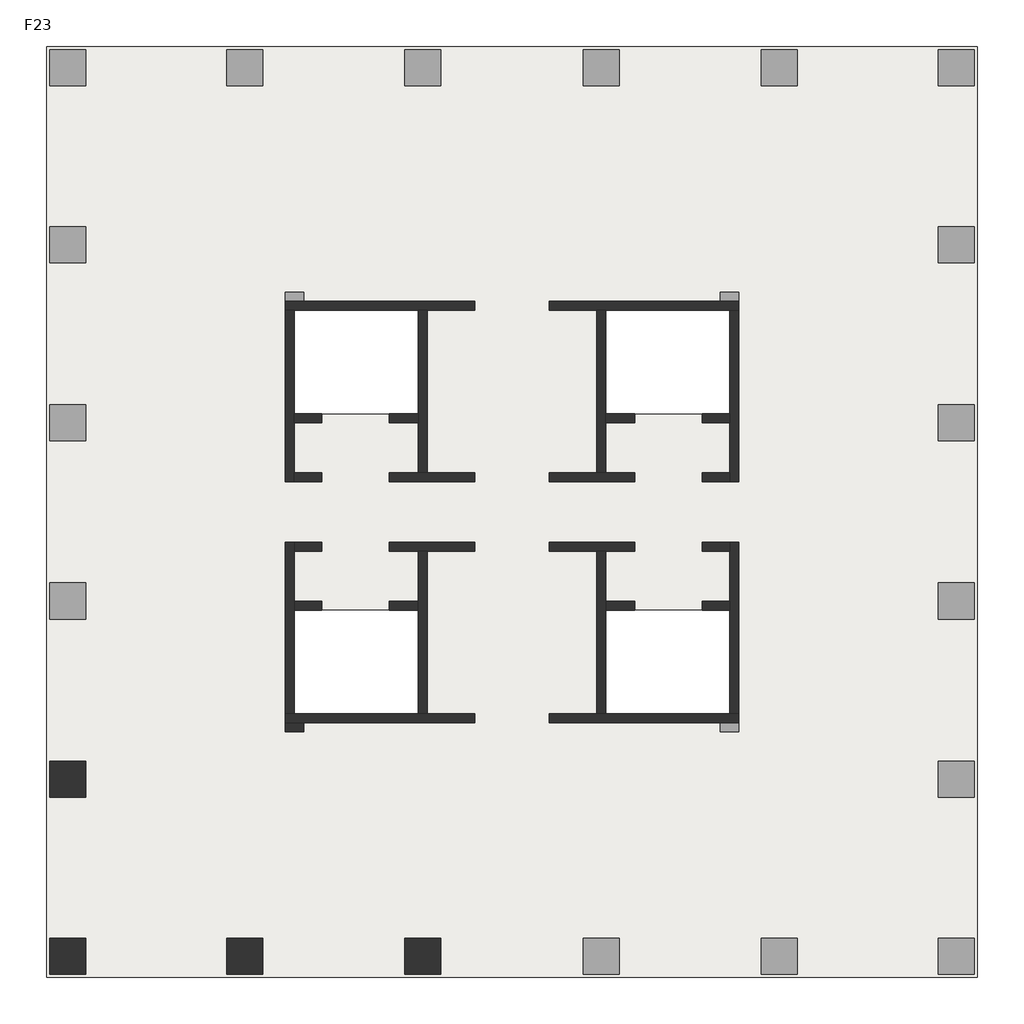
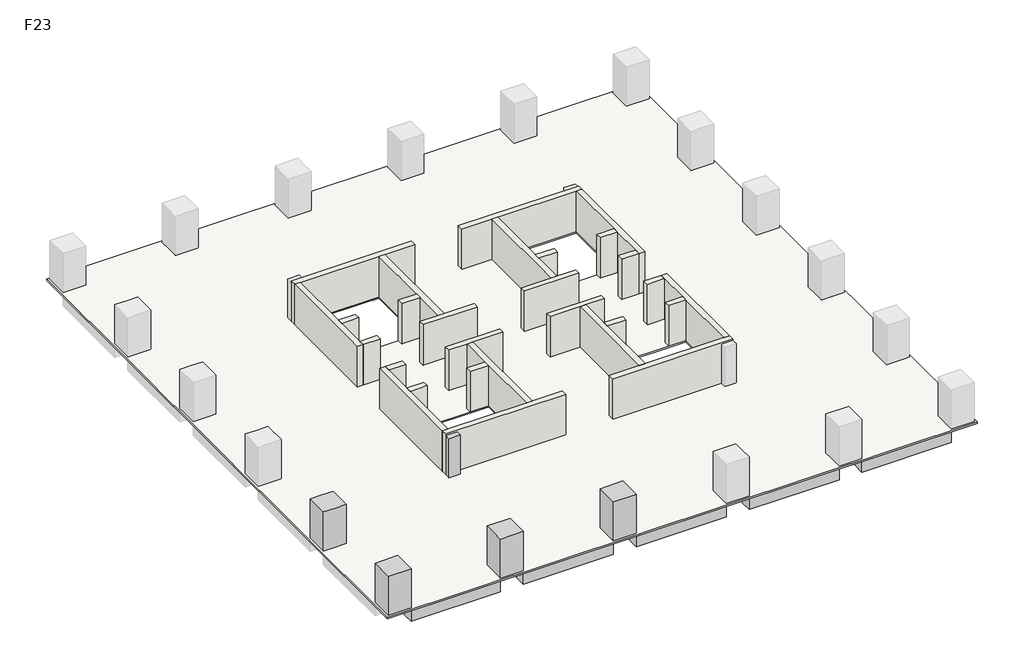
# One storey, part 1 of 2: 28 walls, 5 columns, 3 beams, 1 slab.
"""IFC4 building model written with IfcOpenShell, lengths in millimetres."""

from ifc_helpers import new_model, si_unit, frame, origin, place, context, project, spatial, polyline, outline, extrude, faceted_brep, element, save

model = new_model("IFC4")

# Units and contexts
model_context = context("Model", 3, world=origin())
ifc_project = project(units=[si_unit("LENGTHUNIT", "METRE", prefix="MILLI")], contexts=[model_context])

# Site, building, storey
site = spatial("IfcSite", under=ifc_project)
building = spatial("IfcBuilding", under=site)
storey = spatial("IfcBuildingStorey", under=building, Name="F23", Elevation=87000.0)

# Beams
placement = place(None, origin())
element("IfcBeam", 1, ObjectType="混凝土 - 矩形梁 : KL(5)-800x1000", at=placement, inside=storey, context=model_context, shape_type="SweptSolid", body=[
    extrude(outline(polyline([(-12472.6742169, -13948.9501342), (-12472.6742169, -13148.9501342), (-6222.6742169, -13148.9501342), (-6222.6742169, -13948.9501342), (-12472.6742169, -13948.9501342)])), frame((0.0, 0.0, 86000.0), z_axis=(0.0, 0.0, 1.0), x_axis=(1.0, 0.0, 0.0)), (0.0, 0.0, 1.0), 900.0),
    extrude(outline(polyline([(25327.3257831, -13148.9501342), (25327.3257831, -13948.9501342), (19077.3257831, -13948.9501342), (19077.3257831, -13148.9501342), (25327.3257831, -13148.9501342)])), frame((0.0, 0.0, 86000.0), z_axis=(0.0, 0.0, 1.0), x_axis=(1.0, 0.0, 0.0)), (0.0, 0.0, 1.0), 900.0),
    extrude(outline(polyline([(-4622.6742169, -13948.9501342), (-4622.6742169, -13148.9501342), (1677.3257831, -13148.9501342), (1677.3257831, -13948.9501342), (-4622.6742169, -13948.9501342)])), frame((0.0, 0.0, 86000.0), z_axis=(0.0, 0.0, 1.0), x_axis=(1.0, 0.0, 0.0)), (0.0, 0.0, 1.0), 900.0),
    extrude(outline(polyline([(3277.3257831, -13948.9501342), (3277.3257831, -13148.9501342), (9577.3257831, -13148.9501342), (9577.3257831, -13948.9501342), (3277.3257831, -13948.9501342)])), frame((0.0, 0.0, 86000.0), z_axis=(0.0, 0.0, 1.0), x_axis=(1.0, 0.0, 0.0)), (0.0, 0.0, 1.0), 900.0),
    extrude(outline(polyline([(11177.3257831, -13948.9501342), (11177.3257831, -13148.9501342), (17477.3257831, -13148.9501342), (17477.3257831, -13948.9501342), (11177.3257831, -13948.9501342)])), frame((0.0, 0.0, 86000.0), z_axis=(0.0, 0.0, 1.0), x_axis=(1.0, 0.0, 0.0)), (0.0, 0.0, 1.0), 900.0),
])
element("IfcBeam", 2, ObjectType="混凝土 - 矩形梁 : L1-800x500", at=placement, inside=storey, context=model_context, shape_type="Brep", body=[
    faceted_brep([(-12472.6742169, -5512.1353397, 86500.0), (-3746.9473979, -3341.556529, 86500.0), (-3173.6696907, -3198.9501342, 86500.0), (-3173.6696907, -3198.9501342, 86900.0), (-3746.9473979, -3341.556529, 86900.0), (-12472.6742169, -5512.1353397, 86900.0), (-3622.6742169, -3198.9501342, 86500.0), (-12472.6742169, -4687.7549784, 86500.0), (-3622.6742169, -2486.2624411, 86500.0), (-3622.6742169, -2798.9501342, 86500.0), (-12472.6742169, -4687.7549784, 86900.0), (-3622.6742169, -2486.2624411, 86900.0), (-3622.6742169, -3198.9501342, 86900.0)], [[[0, 1, 2, 3, 4, 5]], [[6, 2, 1, 0, 7, 8, 9]], [[8, 7, 10, 11]], [[2, 6, 12, 3]], [[9, 8, 11, 12, 6]], [[7, 0, 5, 10]], [[5, 4, 3, 12, 11, 10]]]),
])
element("IfcBeam", 3, ObjectType="混凝土 - 矩形梁 : L1-800x500", at=placement, inside=storey, context=model_context, shape_type="SweptSolid", body=[
    extrude(outline(polyline([(-3746.9473979, -3341.556529), (-3173.6696907, -3198.9501342), (-2898.7618154, -3198.9501342), (-4843.6893517, -12348.9501342), (-5661.5624638, -12348.9501342), (-3746.9473979, -3341.556529)])), frame((0.0, 0.0, 86500.0), z_axis=(0.0, 0.0, 1.0), x_axis=(1.0, 0.0, 0.0)), (0.0, 0.0, 1.0), 400.0),
])

# Columns
element("IfcColumn", 4, ObjectType="混凝土 - 矩形 - 柱 : Z1-1600x1600", at=placement, inside=storey, context=model_context, shape_type="Brep", body=[
    faceted_brep([(-12472.6742169, -4498.9501342, 87000.0), (-12472.6742169, -6098.9501342, 87000.0), (-14072.6742169, -6098.9501342, 87000.0), (-14072.6742169, -4498.9501342, 87000.0), (-12472.6742169, -4498.9501342, 89900.0), (-12472.6742169, -6098.9501342, 89900.0), (-13272.6742169, -6098.9501342, 89900.0), (-14072.6742169, -6098.9501342, 89900.0), (-14072.6742169, -6098.9501342, 89000.0), (-14072.6742169, -4498.9501342, 89900.0), (-14072.6742169, -4498.9501342, 89000.0), (-13272.6742169, -4498.9501342, 89900.0)], [[[0, 1, 2, 3]], [[1, 0, 4, 5]], [[2, 1, 5, 6, 7, 8]], [[3, 2, 8, 7, 9, 10]], [[0, 3, 10, 9, 11, 4]], [[5, 4, 11, 9, 7, 6]]]),
])
element("IfcColumn", 5, ObjectType="混凝土 - 矩形 - 柱 : Z1-1600x1600", at=placement, inside=storey, context=model_context, shape_type="SweptSolid", body=[
    extrude(outline(polyline([(-12472.6742169, -12348.9501342), (-12472.6742169, -13948.9501342), (-14072.6742169, -13948.9501342), (-14072.6742169, -12348.9501342), (-12472.6742169, -12348.9501342)])), frame((0.0, 0.0, 87000.0), z_axis=(0.0, 0.0, 1.0), x_axis=(1.0, 0.0, 0.0)), (0.0, 0.0, 1.0), 2900.0),
])
element("IfcColumn", 6, ObjectType="混凝土 - 矩形 - 柱 : Z1-1600x1600", at=placement, inside=storey, context=model_context, shape_type="Brep", body=[
    faceted_brep([(-4622.6742169, -12348.9501342, 87000.0), (-4622.6742169, -13948.9501342, 87000.0), (-6222.6742169, -13948.9501342, 87000.0), (-6222.6742169, -12348.9501342, 87000.0), (-4622.6742169, -12348.9501342, 89900.0), (-4622.6742169, -13148.9501342, 89900.0), (-4622.6742169, -13948.9501342, 89900.0), (-4622.6742169, -13948.9501342, 89000.0), (-6222.6742169, -13948.9501342, 89900.0), (-6222.6742169, -13948.9501342, 89000.0), (-6222.6742169, -13148.9501342, 89900.0), (-6222.6742169, -12348.9501342, 89900.0)], [[[0, 1, 2, 3]], [[1, 0, 4, 5, 6, 7]], [[2, 1, 7, 6, 8, 9]], [[3, 2, 9, 8, 10, 11]], [[0, 3, 11, 4]], [[6, 5, 4, 11, 10, 8]]]),
])
element("IfcColumn", 7, ObjectType="混凝土 - 矩形 - 柱 : Z1-1600x1600", at=placement, inside=storey, context=model_context, shape_type="Brep", body=[
    faceted_brep([(3277.3257831, -12348.9501342, 87000.0), (3277.3257831, -13948.9501342, 87000.0), (1677.3257831, -13948.9501342, 87000.0), (1677.3257831, -12348.9501342, 87000.0), (3277.3257831, -12348.9501342, 89900.0), (3277.3257831, -13148.9501342, 89900.0), (3277.3257831, -13948.9501342, 89900.0), (3277.3257831, -13948.9501342, 89000.0), (1677.3257831, -13948.9501342, 89900.0), (1677.3257831, -13948.9501342, 89000.0), (1677.3257831, -13148.9501342, 89900.0), (1677.3257831, -12348.9501342, 89900.0)], [[[0, 1, 2, 3]], [[1, 0, 4, 5, 6, 7]], [[2, 1, 7, 6, 8, 9]], [[3, 2, 9, 8, 10, 11]], [[0, 3, 11, 4]], [[6, 5, 4, 11, 10, 8]]]),
])
element("IfcColumn", 8, ObjectType="混凝土 - 矩形 - 柱 : Z2-800x800", at=placement, inside=storey, context=model_context, shape_type="SweptSolid", body=[
    extrude(outline(polyline([(-2822.6742169, -3198.9501342), (-3622.6742169, -3198.9501342), (-3622.6742169, -2798.9501342), (-2822.6742169, -2798.9501342), (-2822.6742169, -3198.9501342)])), frame((0.0, 0.0, 87000.0), z_axis=(0.0, 0.0, 1.0), x_axis=(1.0, 0.0, 0.0)), (0.0, 0.0, 1.0), 2900.0),
])

# Slab
element("IfcSlab", 9, ObjectType="LB-100", at=placement, inside=storey, context=model_context, shape_type="SweptSolid", body=[
    extrude(outline(polyline([(27077.3257831, 27201.0498658), (27077.3257831, -14085.2672073), (-14222.6742169, -14085.2672073), (-14222.6742169, 27201.0498658), (27077.3257831, 27201.0498658)]), holes=[polyline([(2277.3257831, 15501.0498658), (-3222.6742169, 15501.0498658), (-3222.6742169, 10901.0498658), (2277.3257831, 10901.0498658), (2277.3257831, 15501.0498658)]), polyline([(2277.3257831, 2201.0498658), (-3222.6742169, 2201.0498658), (-3222.6742169, -2398.9501342), (2277.3257831, -2398.9501342), (2277.3257831, 2201.0498658)]), polyline([(16077.3257831, 2201.0498658), (10577.3257831, 2201.0498658), (10577.3257831, -2398.9501342), (16077.3257831, -2398.9501342), (16077.3257831, 2201.0498658)]), polyline([(16077.3257831, 15501.0498658), (10577.3257831, 15501.0498658), (10577.3257831, 10901.0498658), (16077.3257831, 10901.0498658), (16077.3257831, 15501.0498658)])]), frame((0.0, 0.0, 86900.0), z_axis=(0.0, 0.0, 1.0), x_axis=(1.0, 0.0, 0.0)), (0.0, 0.0, 1.0), 100.0),
])

# Walls
element("IfcWall", 10, ObjectType="剪力墙-400", at=placement, inside=storey, context=model_context, shape_type="Brep", body=[
    faceted_brep([(-3622.6742169, 15501.0498658, 87000.0), (-3222.6742169, 15501.0498658, 87000.0), (2277.3257831, 15501.0498658, 87000.0), (2677.3257831, 15501.0498658, 87000.0), (4777.3257831, 15501.0498658, 87000.0), (4777.3257831, 15501.0498658, 90000.0), (2677.3257831, 15501.0498658, 90000.0), (2277.3257831, 15501.0498658, 90000.0), (-3222.6742169, 15501.0498658, 90000.0), (-3622.6742169, 15501.0498658, 90000.0), (-3622.6742169, 15901.0498658, 87000.0), (-3622.6742169, 15901.0498658, 89900.0), (-3622.6742169, 15901.0498658, 90000.0), (4777.3257831, 15901.0498658, 90000.0), (4777.3257831, 15901.0498658, 87000.0), (-2822.6742169, 15901.0498658, 87000.0)], [[[0, 1, 2, 3, 4, 5, 6, 7, 8, 9]], [[10, 11, 12, 13, 14, 15]], [[4, 3, 2, 1, 0, 10, 15, 14]], [[5, 4, 14, 13]], [[9, 8, 7, 6, 5, 13, 12]], [[0, 9, 12, 11, 10]]]),
])
element("IfcWall", 11, ObjectType="剪力墙-400", at=placement, inside=storey, context=model_context, shape_type="Brep", body=[
    faceted_brep([(2277.3257831, 15501.0498658, 87000.0), (2277.3257831, 10901.0498658, 87000.0), (2277.3257831, 10501.0498658, 87000.0), (2277.3257831, 8301.0498658, 87000.0), (2277.3257831, 8301.0498658, 90000.0), (2277.3257831, 10501.0498658, 90000.0), (2277.3257831, 10901.0498658, 90000.0), (2277.3257831, 15501.0498658, 90000.0), (2677.3257831, 15501.0498658, 87000.0), (2677.3257831, 15501.0498658, 90000.0), (2677.3257831, 8301.0498658, 90000.0), (2677.3257831, 8301.0498658, 87000.0)], [[[0, 1, 2, 3, 4, 5, 6, 7]], [[8, 9, 10, 11]], [[3, 2, 1, 0, 8, 11]], [[7, 6, 5, 4, 10, 9]], [[0, 7, 9, 8]], [[4, 3, 11, 10]]]),
])
element("IfcWall", 12, ObjectType="剪力墙-400", at=placement, inside=storey, context=model_context, shape_type="Brep", body=[
    faceted_brep([(-3622.6742169, 15501.0498658, 87000.0), (-3622.6742169, 7901.0498658, 87000.0), (-3622.6742169, 7901.0498658, 90000.0), (-3622.6742169, 15501.0498658, 90000.0), (-3222.6742169, 15501.0498658, 87000.0), (-3222.6742169, 15501.0498658, 90000.0), (-3222.6742169, 10901.0498658, 90000.0), (-3222.6742169, 10501.0498658, 90000.0), (-3222.6742169, 8301.0498658, 90000.0), (-3222.6742169, 7901.0498658, 90000.0), (-3222.6742169, 7901.0498658, 87000.0), (-3222.6742169, 8301.0498658, 87000.0), (-3222.6742169, 10501.0498658, 87000.0), (-3222.6742169, 10901.0498658, 87000.0)], [[[0, 1, 2, 3]], [[4, 5, 6, 7, 8, 9, 10, 11, 12, 13]], [[1, 0, 4, 13, 12, 11, 10]], [[3, 2, 9, 8, 7, 6, 5]], [[0, 3, 5, 4]], [[2, 1, 10, 9]]]),
])
element("IfcWall", 13, ObjectType="剪力墙-400", at=placement, inside=storey, context=model_context, shape_type="SweptSolid", body=[
    extrude(outline(polyline([(-2022.6742169, 7901.0498658), (-3222.6742169, 7901.0498658), (-3222.6742169, 8301.0498658), (-2022.6742169, 8301.0498658), (-2022.6742169, 7901.0498658)])), frame((0.0, 0.0, 87000.0), z_axis=(0.0, 0.0, 1.0), x_axis=(1.0, 0.0, 0.0)), (0.0, 0.0, 1.0), 3000.0),
])
element("IfcWall", 14, ObjectType="剪力墙-400", at=placement, inside=storey, context=model_context, shape_type="Brep", body=[
    faceted_brep([(977.3257831, 7901.0498658, 87000.0), (4777.3257831, 7901.0498658, 87000.0), (4777.3257831, 7901.0498658, 90000.0), (977.3257831, 7901.0498658, 90000.0), (977.3257831, 8301.0498658, 87000.0), (977.3257831, 8301.0498658, 90000.0), (2277.3257831, 8301.0498658, 90000.0), (2677.3257831, 8301.0498658, 90000.0), (4777.3257831, 8301.0498658, 90000.0), (4777.3257831, 8301.0498658, 87000.0), (2677.3257831, 8301.0498658, 87000.0), (2277.3257831, 8301.0498658, 87000.0)], [[[0, 1, 2, 3]], [[4, 5, 6, 7, 8, 9, 10, 11]], [[1, 0, 4, 11, 10, 9]], [[2, 1, 9, 8]], [[3, 2, 8, 7, 6, 5]], [[0, 3, 5, 4]]]),
])
element("IfcWall", 15, ObjectType="剪力墙-400", at=placement, inside=storey, context=model_context, shape_type="SweptSolid", body=[
    extrude(outline(polyline([(-2022.6742169, 10501.0498658), (-3222.6742169, 10501.0498658), (-3222.6742169, 10901.0498658), (-2022.6742169, 10901.0498658), (-2022.6742169, 10501.0498658)])), frame((0.0, 0.0, 87000.0), z_axis=(0.0, 0.0, 1.0), x_axis=(1.0, 0.0, 0.0)), (0.0, 0.0, 1.0), 3000.0),
])
element("IfcWall", 16, ObjectType="剪力墙-400", at=placement, inside=storey, context=model_context, shape_type="SweptSolid", body=[
    extrude(outline(polyline([(2277.3257831, 10501.0498658), (977.3257831, 10501.0498658), (977.3257831, 10901.0498658), (2277.3257831, 10901.0498658), (2277.3257831, 10501.0498658)])), frame((0.0, 0.0, 87000.0), z_axis=(0.0, 0.0, 1.0), x_axis=(1.0, 0.0, 0.0)), (0.0, 0.0, 1.0), 3000.0),
])
element("IfcWall", 17, ObjectType="剪力墙-400", at=placement, inside=storey, context=model_context, shape_type="Brep", body=[
    faceted_brep([(16477.3257831, 15901.0498658, 87000.0), (15677.3257831, 15901.0498658, 87000.0), (8077.3257831, 15901.0498658, 87000.0), (8077.3257831, 15901.0498658, 90000.0), (16477.3257831, 15901.0498658, 90000.0), (16477.3257831, 15901.0498658, 89900.0), (16477.3257831, 15501.0498658, 87000.0), (16477.3257831, 15501.0498658, 90000.0), (16077.3257831, 15501.0498658, 90000.0), (10577.3257831, 15501.0498658, 90000.0), (10177.3257831, 15501.0498658, 90000.0), (8077.3257831, 15501.0498658, 90000.0), (8077.3257831, 15501.0498658, 87000.0), (10177.3257831, 15501.0498658, 87000.0), (10577.3257831, 15501.0498658, 87000.0), (16077.3257831, 15501.0498658, 87000.0)], [[[0, 1, 2, 3, 4, 5]], [[6, 7, 8, 9, 10, 11, 12, 13, 14, 15]], [[2, 1, 0, 6, 15, 14, 13, 12]], [[3, 2, 12, 11]], [[4, 3, 11, 10, 9, 8, 7]], [[0, 5, 4, 7, 6]]]),
])
element("IfcWall", 18, ObjectType="剪力墙-400", at=placement, inside=storey, context=model_context, shape_type="Brep", body=[
    faceted_brep([(10177.3257831, 15501.0498658, 87000.0), (10177.3257831, 8301.0498658, 87000.0), (10177.3257831, 8301.0498658, 90000.0), (10177.3257831, 15501.0498658, 90000.0), (10577.3257831, 15501.0498658, 87000.0), (10577.3257831, 15501.0498658, 90000.0), (10577.3257831, 10901.0498658, 90000.0), (10577.3257831, 10501.0498658, 90000.0), (10577.3257831, 8301.0498658, 90000.0), (10577.3257831, 8301.0498658, 87000.0), (10577.3257831, 10501.0498658, 87000.0), (10577.3257831, 10901.0498658, 87000.0)], [[[0, 1, 2, 3]], [[4, 5, 6, 7, 8, 9, 10, 11]], [[1, 0, 4, 11, 10, 9]], [[3, 2, 8, 7, 6, 5]], [[0, 3, 5, 4]], [[2, 1, 9, 8]]]),
])
element("IfcWall", 19, ObjectType="剪力墙-400", at=placement, inside=storey, context=model_context, shape_type="Brep", body=[
    faceted_brep([(16077.3257831, 15501.0498658, 87000.0), (16077.3257831, 10901.0498658, 87000.0), (16077.3257831, 10501.0498658, 87000.0), (16077.3257831, 8301.0498658, 87000.0), (16077.3257831, 7901.0498658, 87000.0), (16077.3257831, 7901.0498658, 90000.0), (16077.3257831, 8301.0498658, 90000.0), (16077.3257831, 10501.0498658, 90000.0), (16077.3257831, 10901.0498658, 90000.0), (16077.3257831, 15501.0498658, 90000.0), (16477.3257831, 15501.0498658, 87000.0), (16477.3257831, 15501.0498658, 90000.0), (16477.3257831, 7901.0498658, 90000.0), (16477.3257831, 7901.0498658, 87000.0)], [[[0, 1, 2, 3, 4, 5, 6, 7, 8, 9]], [[10, 11, 12, 13]], [[4, 3, 2, 1, 0, 10, 13]], [[9, 8, 7, 6, 5, 12, 11]], [[0, 9, 11, 10]], [[5, 4, 13, 12]]]),
])
element("IfcWall", 20, ObjectType="剪力墙-400", at=placement, inside=storey, context=model_context, shape_type="SweptSolid", body=[
    extrude(outline(polyline([(14877.3257831, 8301.0498658), (16077.3257831, 8301.0498658), (16077.3257831, 7901.0498658), (14877.3257831, 7901.0498658), (14877.3257831, 8301.0498658)])), frame((0.0, 0.0, 87000.0), z_axis=(0.0, 0.0, 1.0), x_axis=(1.0, 0.0, 0.0)), (0.0, 0.0, 1.0), 3000.0),
])
element("IfcWall", 21, ObjectType="剪力墙-400", at=placement, inside=storey, context=model_context, shape_type="Brep", body=[
    faceted_brep([(11877.3257831, 8301.0498658, 87000.0), (10577.3257831, 8301.0498658, 87000.0), (10177.3257831, 8301.0498658, 87000.0), (8077.3257831, 8301.0498658, 87000.0), (8077.3257831, 8301.0498658, 90000.0), (10177.3257831, 8301.0498658, 90000.0), (10577.3257831, 8301.0498658, 90000.0), (11877.3257831, 8301.0498658, 90000.0), (11877.3257831, 7901.0498658, 87000.0), (11877.3257831, 7901.0498658, 90000.0), (8077.3257831, 7901.0498658, 90000.0), (8077.3257831, 7901.0498658, 87000.0)], [[[0, 1, 2, 3, 4, 5, 6, 7]], [[8, 9, 10, 11]], [[3, 2, 1, 0, 8, 11]], [[4, 3, 11, 10]], [[7, 6, 5, 4, 10, 9]], [[0, 7, 9, 8]]]),
])
element("IfcWall", 22, ObjectType="剪力墙-400", at=placement, inside=storey, context=model_context, shape_type="SweptSolid", body=[
    extrude(outline(polyline([(14877.3257831, 10901.0498658), (16077.3257831, 10901.0498658), (16077.3257831, 10501.0498658), (14877.3257831, 10501.0498658), (14877.3257831, 10901.0498658)])), frame((0.0, 0.0, 87000.0), z_axis=(0.0, 0.0, 1.0), x_axis=(1.0, 0.0, 0.0)), (0.0, 0.0, 1.0), 3000.0),
])
element("IfcWall", 23, ObjectType="剪力墙-400", at=placement, inside=storey, context=model_context, shape_type="SweptSolid", body=[
    extrude(outline(polyline([(10577.3257831, 10901.0498658), (11877.3257831, 10901.0498658), (11877.3257831, 10501.0498658), (10577.3257831, 10501.0498658), (10577.3257831, 10901.0498658)])), frame((0.0, 0.0, 87000.0), z_axis=(0.0, 0.0, 1.0), x_axis=(1.0, 0.0, 0.0)), (0.0, 0.0, 1.0), 3000.0),
])
element("IfcWall", 24, ObjectType="剪力墙-400", at=placement, inside=storey, context=model_context, shape_type="Brep", body=[
    faceted_brep([(-3622.6742169, -2798.9501342, 87000.0), (-2822.6742169, -2798.9501342, 87000.0), (4777.3257831, -2798.9501342, 87000.0), (4777.3257831, -2798.9501342, 90000.0), (-3622.6742169, -2798.9501342, 90000.0), (-3622.6742169, -2798.9501342, 89900.0), (-3622.6742169, -2398.9501342, 87000.0), (-3622.6742169, -2398.9501342, 90000.0), (-3222.6742169, -2398.9501342, 90000.0), (2277.3257831, -2398.9501342, 90000.0), (2677.3257831, -2398.9501342, 90000.0), (4777.3257831, -2398.9501342, 90000.0), (4777.3257831, -2398.9501342, 87000.0), (2677.3257831, -2398.9501342, 87000.0), (2277.3257831, -2398.9501342, 87000.0), (-3222.6742169, -2398.9501342, 87000.0)], [[[0, 1, 2, 3, 4, 5]], [[6, 7, 8, 9, 10, 11, 12, 13, 14, 15]], [[2, 1, 0, 6, 15, 14, 13, 12]], [[3, 2, 12, 11]], [[4, 3, 11, 10, 9, 8, 7]], [[0, 5, 4, 7, 6]]]),
])
element("IfcWall", 25, ObjectType="剪力墙-400", at=placement, inside=storey, context=model_context, shape_type="Brep", body=[
    faceted_brep([(2677.3257831, -2398.9501342, 87000.0), (2677.3257831, 4801.0498658, 87000.0), (2677.3257831, 4801.0498658, 90000.0), (2677.3257831, -2398.9501342, 90000.0), (2277.3257831, -2398.9501342, 87000.0), (2277.3257831, -2398.9501342, 90000.0), (2277.3257831, 2201.0498658, 90000.0), (2277.3257831, 2601.0498658, 90000.0), (2277.3257831, 4801.0498658, 90000.0), (2277.3257831, 4801.0498658, 87000.0), (2277.3257831, 2601.0498658, 87000.0), (2277.3257831, 2201.0498658, 87000.0)], [[[0, 1, 2, 3]], [[4, 5, 6, 7, 8, 9, 10, 11]], [[1, 0, 4, 11, 10, 9]], [[3, 2, 8, 7, 6, 5]], [[0, 3, 5, 4]], [[2, 1, 9, 8]]]),
])
element("IfcWall", 26, ObjectType="剪力墙-400", at=placement, inside=storey, context=model_context, shape_type="Brep", body=[
    faceted_brep([(-3222.6742169, -2398.9501342, 87000.0), (-3222.6742169, 2201.0498658, 87000.0), (-3222.6742169, 2601.0498658, 87000.0), (-3222.6742169, 4801.0498658, 87000.0), (-3222.6742169, 5201.0498658, 87000.0), (-3222.6742169, 5201.0498658, 90000.0), (-3222.6742169, 4801.0498658, 90000.0), (-3222.6742169, 2601.0498658, 90000.0), (-3222.6742169, 2201.0498658, 90000.0), (-3222.6742169, -2398.9501342, 90000.0), (-3622.6742169, -2398.9501342, 87000.0), (-3622.6742169, -2398.9501342, 90000.0), (-3622.6742169, 5201.0498658, 90000.0), (-3622.6742169, 5201.0498658, 87000.0)], [[[0, 1, 2, 3, 4, 5, 6, 7, 8, 9]], [[10, 11, 12, 13]], [[4, 3, 2, 1, 0, 10, 13]], [[9, 8, 7, 6, 5, 12, 11]], [[0, 9, 11, 10]], [[5, 4, 13, 12]]]),
])
element("IfcWall", 27, ObjectType="剪力墙-400", at=placement, inside=storey, context=model_context, shape_type="SweptSolid", body=[
    extrude(outline(polyline([(-2022.6742169, 4801.0498658), (-3222.6742169, 4801.0498658), (-3222.6742169, 5201.0498658), (-2022.6742169, 5201.0498658), (-2022.6742169, 4801.0498658)])), frame((0.0, 0.0, 87000.0), z_axis=(0.0, 0.0, 1.0), x_axis=(1.0, 0.0, 0.0)), (0.0, 0.0, 1.0), 3000.0),
])
element("IfcWall", 28, ObjectType="剪力墙-400", at=placement, inside=storey, context=model_context, shape_type="Brep", body=[
    faceted_brep([(977.3257831, 4801.0498658, 87000.0), (2277.3257831, 4801.0498658, 87000.0), (2677.3257831, 4801.0498658, 87000.0), (4777.3257831, 4801.0498658, 87000.0), (4777.3257831, 4801.0498658, 90000.0), (2677.3257831, 4801.0498658, 90000.0), (2277.3257831, 4801.0498658, 90000.0), (977.3257831, 4801.0498658, 90000.0), (977.3257831, 5201.0498658, 87000.0), (977.3257831, 5201.0498658, 90000.0), (4777.3257831, 5201.0498658, 90000.0), (4777.3257831, 5201.0498658, 87000.0)], [[[0, 1, 2, 3, 4, 5, 6, 7]], [[8, 9, 10, 11]], [[3, 2, 1, 0, 8, 11]], [[4, 3, 11, 10]], [[7, 6, 5, 4, 10, 9]], [[0, 7, 9, 8]]]),
])
element("IfcWall", 29, ObjectType="剪力墙-400", at=placement, inside=storey, context=model_context, shape_type="SweptSolid", body=[
    extrude(outline(polyline([(-2022.6742169, 2201.0498658), (-3222.6742169, 2201.0498658), (-3222.6742169, 2601.0498658), (-2022.6742169, 2601.0498658), (-2022.6742169, 2201.0498658)])), frame((0.0, 0.0, 87000.0), z_axis=(0.0, 0.0, 1.0), x_axis=(1.0, 0.0, 0.0)), (0.0, 0.0, 1.0), 3000.0),
])
element("IfcWall", 30, ObjectType="剪力墙-400", at=placement, inside=storey, context=model_context, shape_type="SweptSolid", body=[
    extrude(outline(polyline([(2277.3257831, 2201.0498658), (977.3257831, 2201.0498658), (977.3257831, 2601.0498658), (2277.3257831, 2601.0498658), (2277.3257831, 2201.0498658)])), frame((0.0, 0.0, 87000.0), z_axis=(0.0, 0.0, 1.0), x_axis=(1.0, 0.0, 0.0)), (0.0, 0.0, 1.0), 3000.0),
])
element("IfcWall", 31, ObjectType="剪力墙-400", at=placement, inside=storey, context=model_context, shape_type="Brep", body=[
    faceted_brep([(16477.3257831, -2398.9501342, 87000.0), (16077.3257831, -2398.9501342, 87000.0), (10577.3257831, -2398.9501342, 87000.0), (10177.3257831, -2398.9501342, 87000.0), (8077.3257831, -2398.9501342, 87000.0), (8077.3257831, -2398.9501342, 90000.0), (10177.3257831, -2398.9501342, 90000.0), (10577.3257831, -2398.9501342, 90000.0), (16077.3257831, -2398.9501342, 90000.0), (16477.3257831, -2398.9501342, 90000.0), (16477.3257831, -2798.9501342, 87000.0), (16477.3257831, -2798.9501342, 89900.0), (16477.3257831, -2798.9501342, 90000.0), (8077.3257831, -2798.9501342, 90000.0), (8077.3257831, -2798.9501342, 87000.0), (15677.3257831, -2798.9501342, 87000.0)], [[[0, 1, 2, 3, 4, 5, 6, 7, 8, 9]], [[10, 11, 12, 13, 14, 15]], [[4, 3, 2, 1, 0, 10, 15, 14]], [[5, 4, 14, 13]], [[9, 8, 7, 6, 5, 13, 12]], [[0, 9, 12, 11, 10]]]),
])
element("IfcWall", 32, ObjectType="剪力墙-400", at=placement, inside=storey, context=model_context, shape_type="Brep", body=[
    faceted_brep([(10577.3257831, -2398.9501342, 87000.0), (10577.3257831, 2201.0498658, 87000.0), (10577.3257831, 2601.0498658, 87000.0), (10577.3257831, 4801.0498658, 87000.0), (10577.3257831, 4801.0498658, 90000.0), (10577.3257831, 2601.0498658, 90000.0), (10577.3257831, 2201.0498658, 90000.0), (10577.3257831, -2398.9501342, 90000.0), (10177.3257831, -2398.9501342, 87000.0), (10177.3257831, -2398.9501342, 90000.0), (10177.3257831, 4801.0498658, 90000.0), (10177.3257831, 4801.0498658, 87000.0)], [[[0, 1, 2, 3, 4, 5, 6, 7]], [[8, 9, 10, 11]], [[3, 2, 1, 0, 8, 11]], [[7, 6, 5, 4, 10, 9]], [[0, 7, 9, 8]], [[4, 3, 11, 10]]]),
])
element("IfcWall", 33, ObjectType="剪力墙-400", at=placement, inside=storey, context=model_context, shape_type="Brep", body=[
    faceted_brep([(16477.3257831, -2398.9501342, 87000.0), (16477.3257831, 5201.0498658, 87000.0), (16477.3257831, 5201.0498658, 90000.0), (16477.3257831, -2398.9501342, 90000.0), (16077.3257831, -2398.9501342, 87000.0), (16077.3257831, -2398.9501342, 90000.0), (16077.3257831, 2201.0498658, 90000.0), (16077.3257831, 2601.0498658, 90000.0), (16077.3257831, 4801.0498658, 90000.0), (16077.3257831, 5201.0498658, 90000.0), (16077.3257831, 5201.0498658, 87000.0), (16077.3257831, 4801.0498658, 87000.0), (16077.3257831, 2601.0498658, 87000.0), (16077.3257831, 2201.0498658, 87000.0)], [[[0, 1, 2, 3]], [[4, 5, 6, 7, 8, 9, 10, 11, 12, 13]], [[1, 0, 4, 13, 12, 11, 10]], [[3, 2, 9, 8, 7, 6, 5]], [[0, 3, 5, 4]], [[2, 1, 10, 9]]]),
])
element("IfcWall", 34, ObjectType="剪力墙-400", at=placement, inside=storey, context=model_context, shape_type="SweptSolid", body=[
    extrude(outline(polyline([(14877.3257831, 5201.0498658), (16077.3257831, 5201.0498658), (16077.3257831, 4801.0498658), (14877.3257831, 4801.0498658), (14877.3257831, 5201.0498658)])), frame((0.0, 0.0, 87000.0), z_axis=(0.0, 0.0, 1.0), x_axis=(1.0, 0.0, 0.0)), (0.0, 0.0, 1.0), 3000.0),
])
element("IfcWall", 35, ObjectType="剪力墙-400", at=placement, inside=storey, context=model_context, shape_type="Brep", body=[
    faceted_brep([(11877.3257831, 5201.0498658, 87000.0), (8077.3257831, 5201.0498658, 87000.0), (8077.3257831, 5201.0498658, 90000.0), (11877.3257831, 5201.0498658, 90000.0), (11877.3257831, 4801.0498658, 87000.0), (11877.3257831, 4801.0498658, 90000.0), (10577.3257831, 4801.0498658, 90000.0), (10177.3257831, 4801.0498658, 90000.0), (8077.3257831, 4801.0498658, 90000.0), (8077.3257831, 4801.0498658, 87000.0), (10177.3257831, 4801.0498658, 87000.0), (10577.3257831, 4801.0498658, 87000.0)], [[[0, 1, 2, 3]], [[4, 5, 6, 7, 8, 9, 10, 11]], [[1, 0, 4, 11, 10, 9]], [[2, 1, 9, 8]], [[3, 2, 8, 7, 6, 5]], [[0, 3, 5, 4]]]),
])
element("IfcWall", 36, ObjectType="剪力墙-400", at=placement, inside=storey, context=model_context, shape_type="SweptSolid", body=[
    extrude(outline(polyline([(14877.3257831, 2601.0498658), (16077.3257831, 2601.0498658), (16077.3257831, 2201.0498658), (14877.3257831, 2201.0498658), (14877.3257831, 2601.0498658)])), frame((0.0, 0.0, 87000.0), z_axis=(0.0, 0.0, 1.0), x_axis=(1.0, 0.0, 0.0)), (0.0, 0.0, 1.0), 3000.0),
])
element("IfcWall", 37, ObjectType="剪力墙-400", at=placement, inside=storey, context=model_context, shape_type="SweptSolid", body=[
    extrude(outline(polyline([(10577.3257831, 2601.0498658), (11877.3257831, 2601.0498658), (11877.3257831, 2201.0498658), (10577.3257831, 2201.0498658), (10577.3257831, 2601.0498658)])), frame((0.0, 0.0, 87000.0), z_axis=(0.0, 0.0, 1.0), x_axis=(1.0, 0.0, 0.0)), (0.0, 0.0, 1.0), 3000.0),
])

save(model, "model.ifc")
